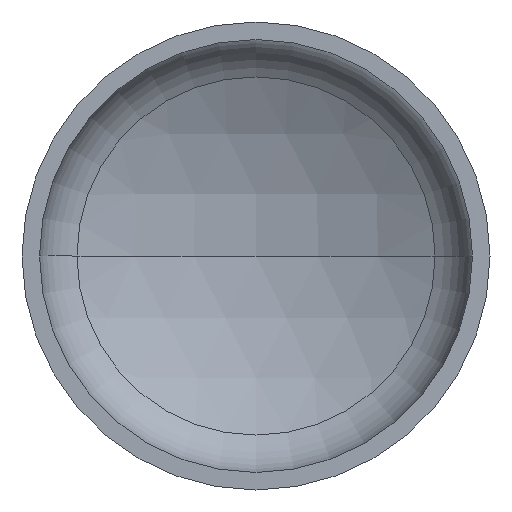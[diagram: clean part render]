
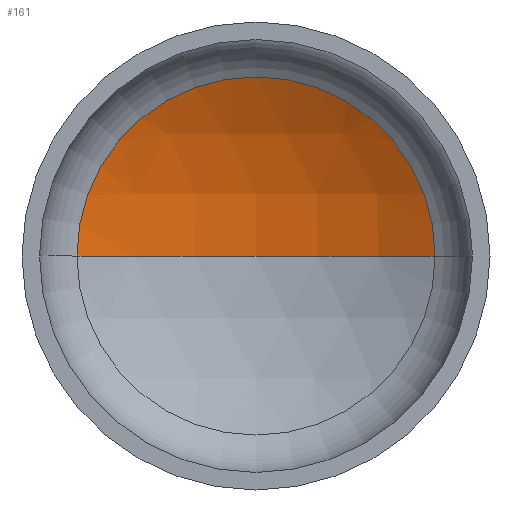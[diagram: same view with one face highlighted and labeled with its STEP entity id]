
A CAD part, front view. The second image highlights one B-rep face of the part: STEP entity #161.
In plain terms, the highlighted spherical face has radius 2560 mm.
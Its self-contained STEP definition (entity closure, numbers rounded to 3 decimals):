
#10 = ORIENTED_EDGE ( 'NONE', *, *, #222, .F. ) ;
#26 = CARTESIAN_POINT ( 'NONE',  ( 1224.348, 505.327, 0. ) ) ;
#47 = CARTESIAN_POINT ( 'NONE',  ( 0., 817.089, 0. ) ) ;
#52 = VERTEX_POINT ( 'NONE', #47 ) ;
#69 = ORIENTED_EDGE ( 'NONE', *, *, #215, .T. ) ;
#85 = ORIENTED_EDGE ( 'NONE', *, *, #221, .T. ) ;
#91 = VERTEX_POINT ( 'NONE', #26 ) ;
#109 = DIRECTION ( 'NONE',  ( -1., 0., 0. ) ) ;
#115 = EDGE_LOOP ( 'NONE', ( #10, #85, #69 ) ) ;
#125 = SPHERICAL_SURFACE ( 'NONE', #173, 2560. ) ;
#133 = AXIS2_PLACEMENT_3D ( 'NONE', #329, #330, #331 ) ;
#135 = AXIS2_PLACEMENT_3D ( 'NONE', #186, #182, #109 ) ;
#139 = AXIS2_PLACEMENT_3D ( 'NONE', #226, #152, #151 ) ;
#151 = DIRECTION ( 'NONE',  ( 1., 0., 0. ) ) ;
#152 = DIRECTION ( 'NONE',  ( 0., -1., 0. ) ) ;
#161 = ADVANCED_FACE ( 'NONE', ( #291 ), #125, .F. ) ;
#173 = AXIS2_PLACEMENT_3D ( 'NONE', #376, #343, #315 ) ;
#182 = DIRECTION ( 'NONE',  ( 0., 0., -1. ) ) ;
#186 = CARTESIAN_POINT ( 'NONE',  ( 0., -1742.911, 0. ) ) ;
#215 = EDGE_CURVE ( 'NONE', #91, #369, #279, .T. ) ;
#221 = EDGE_CURVE ( 'NONE', #52, #91, #227, .T. ) ;
#222 = EDGE_CURVE ( 'NONE', #52, #369, #390, .T. ) ;
#226 = CARTESIAN_POINT ( 'NONE',  ( 0., 505.327, 0. ) ) ;
#227 = CIRCLE ( 'NONE', #135, 2560. ) ;
#279 = CIRCLE ( 'NONE', #139, 1224.348 ) ;
#291 = FACE_OUTER_BOUND ( 'NONE', #115, .T. ) ;
#315 = DIRECTION ( 'NONE',  ( -1., 0., 0. ) ) ;
#329 = CARTESIAN_POINT ( 'NONE',  ( 0., -1742.911, 0. ) ) ;
#330 = DIRECTION ( 'NONE',  ( 0., 0., 1. ) ) ;
#331 = DIRECTION ( 'NONE',  ( 1., 0., 0. ) ) ;
#343 = DIRECTION ( 'NONE',  ( 0., 0., -1. ) ) ;
#369 = VERTEX_POINT ( 'NONE', #403 ) ;
#376 = CARTESIAN_POINT ( 'NONE',  ( 0., -1742.911, 0. ) ) ;
#390 = CIRCLE ( 'NONE', #133, 2560. ) ;
#403 = CARTESIAN_POINT ( 'NONE',  ( -1224.348, 505.327, 0. ) ) ;
